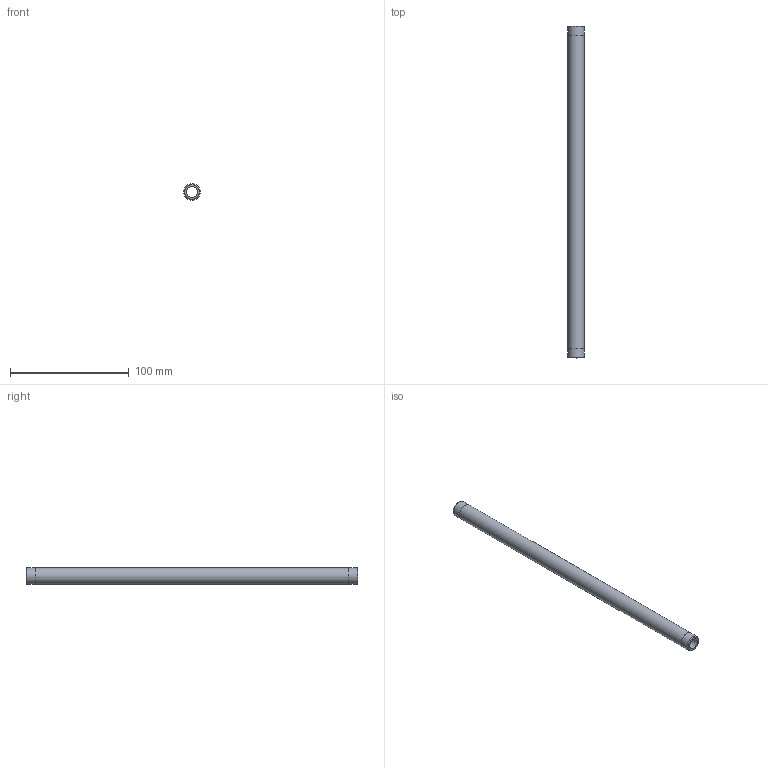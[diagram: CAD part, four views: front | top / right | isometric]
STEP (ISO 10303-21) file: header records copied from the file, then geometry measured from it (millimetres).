
FILE_DESCRIPTION(/* description */ (''),/* implementation_level */ '2;1');
FILE_NAME(/* name */ 'C:/Users/drich/Desktop/SSPN14-11 v1.step',/* time_stamp */ '2020-01-04T13:15:09-06:00',/* author */ (''),/* organization */ (''),/* preprocessor_version */ 'ST-DEVELOPER v18',/* originating_system */ 'Autodesk Translation Framework v8.12.0.6',/* authorisation */ '');
FILE_SCHEMA (('CONFIG_CONTROL_DESIGN','AUTOMOTIVE_DESIGN { 1 0 10303 214 3 1 1 }'));
Length unit declared in the file: inch
Products named in the file (1): SSPN14-11
Bounding box: 13.72 x 279.4 x 13.72 mm (x, y, z)
Volume: 22484.4 mm3; surface area: 20273.8 mm2
Topology: 1 solids, 1 shells, 10 faces, 24 edges, 18 vertices
Faces by surface type: cylinder 4, plane 4, cone 2
Full cylindrical faces by diameter (mm): 9.246 x1, 13.665 x2, 13.716 x1
Entity records: 353 total; most frequent: DIRECTION 64, CARTESIAN_POINT 53, ORIENTED_EDGE 48, AXIS2_PLACEMENT_3D 29, EDGE_CURVE 24, CIRCLE 18, VERTEX_POINT 18, EDGE_LOOP 14
